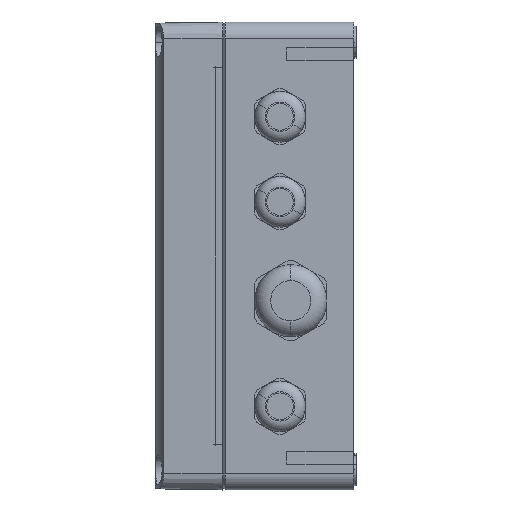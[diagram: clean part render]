
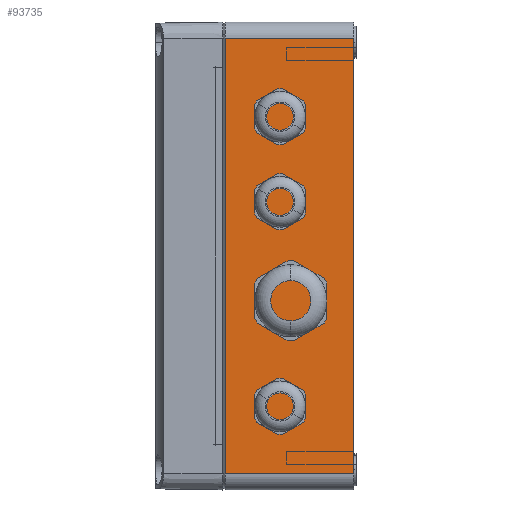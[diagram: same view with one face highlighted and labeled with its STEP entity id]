
A CAD part, left-side view. The second image highlights one B-rep face of the part: STEP entity #93735.
In plain terms, the highlighted planar face has unit normal (-1, 0, 0).
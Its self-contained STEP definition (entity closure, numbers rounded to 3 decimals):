
#2896 = VECTOR ( 'NONE', #63141, 1000. ) ;
#10406 = CARTESIAN_POINT ( 'NONE',  ( -125., -81.5, 0. ) ) ;
#12606 = CARTESIAN_POINT ( 'NONE',  ( -125., 81.5, -1. ) ) ;
#18147 = DIRECTION ( 'NONE',  ( 0., 0., 1. ) ) ;
#18810 = CARTESIAN_POINT ( 'NONE',  ( -125., -81.5, 0. ) ) ;
#19181 = VERTEX_POINT ( 'NONE', #12606 ) ;
#20934 = ORIENTED_EDGE ( 'NONE', *, *, #91182, .T. ) ;
#21164 = VERTEX_POINT ( 'NONE', #71744 ) ;
#27751 = LINE ( 'NONE', #51494, #43435 ) ;
#30341 = LINE ( 'NONE', #100201, #50805 ) ;
#30631 = VECTOR ( 'NONE', #33937, 1000. ) ;
#33937 = DIRECTION ( 'NONE',  ( 0., 0., 1. ) ) ;
#35333 = EDGE_LOOP ( 'NONE', ( #66692, #50593, #66460, #20934 ) ) ;
#43435 = VECTOR ( 'NONE', #59202, 1000. ) ;
#44182 = CARTESIAN_POINT ( 'NONE',  ( -125., 81.5, -49. ) ) ;
#45273 = CARTESIAN_POINT ( 'NONE',  ( -125., -81.5, -1. ) ) ;
#45591 = DIRECTION ( 'NONE',  ( 0., 0., 1. ) ) ;
#46350 = EDGE_CURVE ( 'NONE', #62479, #21164, #90103, .T. ) ;
#48072 = EDGE_CURVE ( 'NONE', #95817, #19181, #30341, .T. ) ;
#50593 = ORIENTED_EDGE ( 'NONE', *, *, #59852, .F. ) ;
#50805 = VECTOR ( 'NONE', #45591, 1000. ) ;
#51494 = CARTESIAN_POINT ( 'NONE',  ( -125., 0., -49. ) ) ;
#59202 = DIRECTION ( 'NONE',  ( 0., 1., 0. ) ) ;
#59852 = EDGE_CURVE ( 'NONE', #62479, #95817, #27751, .T. ) ;
#61856 = LINE ( 'NONE', #45273, #2896 ) ;
#62479 = VERTEX_POINT ( 'NONE', #73901 ) ;
#63141 = DIRECTION ( 'NONE',  ( 0., 1., 0. ) ) ;
#64139 = DIRECTION ( 'NONE',  ( -1., 0., 0. ) ) ;
#66460 = ORIENTED_EDGE ( 'NONE', *, *, #46350, .T. ) ;
#66692 = ORIENTED_EDGE ( 'NONE', *, *, #48072, .F. ) ;
#67751 = FACE_OUTER_BOUND ( 'NONE', #35333, .T. ) ;
#71744 = CARTESIAN_POINT ( 'NONE',  ( -125., -81.5, -1. ) ) ;
#73901 = CARTESIAN_POINT ( 'NONE',  ( -125., -81.5, -49. ) ) ;
#90103 = LINE ( 'NONE', #18810, #30631 ) ;
#91182 = EDGE_CURVE ( 'NONE', #21164, #19181, #61856, .T. ) ;
#93735 = ADVANCED_FACE ( 'NONE', ( #67751 ), #94749, .T. ) ;
#94749 = PLANE ( 'NONE',  #95733 ) ;
#95733 = AXIS2_PLACEMENT_3D ( 'NONE', #10406, #64139, #18147 ) ;
#95817 = VERTEX_POINT ( 'NONE', #44182 ) ;
#100201 = CARTESIAN_POINT ( 'NONE',  ( -125., 81.5, 0. ) ) ;
